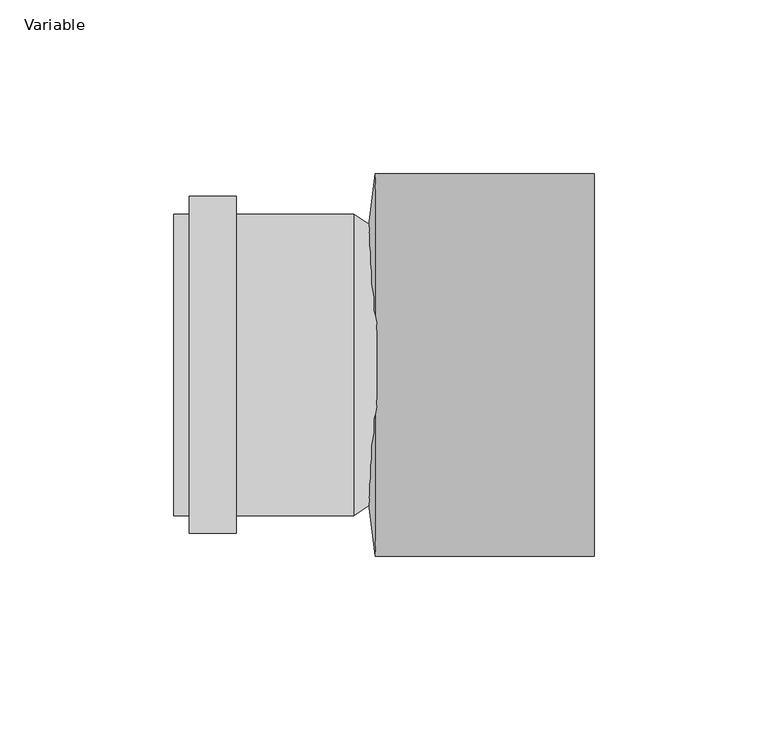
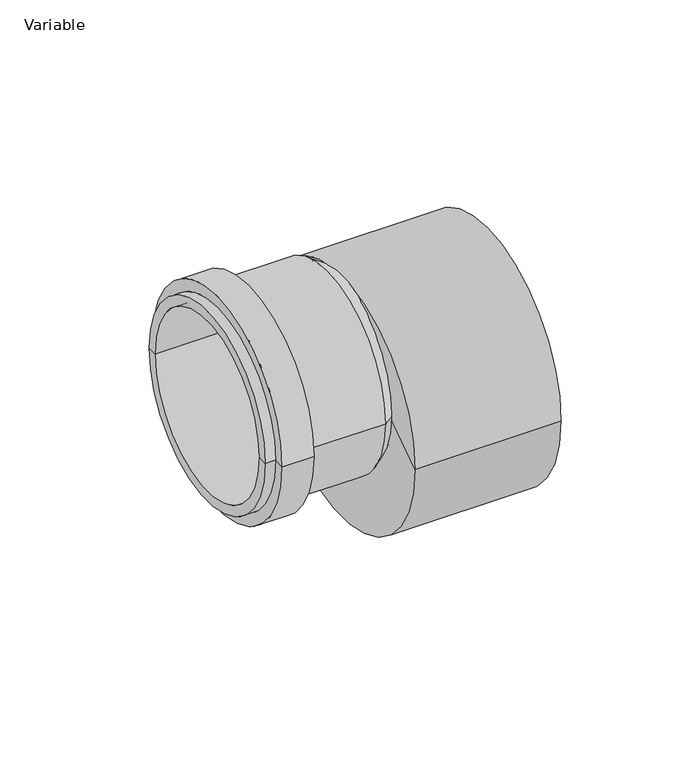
"""IFC4 building model written with IfcOpenShell, lengths in millimetres: pipe fitting geometry, AliaxisFR_Friaphon_Reducer_FR : Variable."""

from ifc_helpers import new_model, si_unit, point, frame, frame_2d, origin, origin_2d, place, context, project, spatial, polyline, circle_curve, trimmed, segment, composite_curve, outline, extrude, source, transform, mapped, element, save
from ifc_brep_helpers import plane_surface, cylinder_surface, revolved_surface, spline_surface, advanced_brep


def variable_4588926f(model_context):
    return source(origin(), model_context, "Body", "SolidModel", [
        advanced_brep(
        [(-87.5, -43.4, 0.0), (-87.5, 43.4, 0.0), (-87.5, 39.0, 0.0), (-87.5, -39.0, 0.0), (-69.5, -48.5, 0.0), (-69.5, 48.5, 0.0), (-83.1, 48.5, 0.0), (-83.1, -48.5, 0.0), (-69.5, -43.4, 0.0), (-69.5, 43.4, 0.0), (-35.7, -43.4, 0.0), (-35.7, 43.4, 0.0), (-29.1, 39.0, 0.0), (-29.1, -39.0, 0.0), (-83.1, -43.4, 0.0), (-83.1, 43.4, 0.0)],
        [
            (0, 1, circle_curve(frame((-87.5, 0.0, 0.0), z_axis=(-1.0, 0.0, 0.0), x_axis=(0.0, 1.0, 0.0)), 43.4)),
            (1, 2),
            (2, 3, circle_curve(frame((-87.5, 0.0, 0.0), z_axis=(1.0, 0.0, 0.0), x_axis=(0.0, 1.0, 0.0)), 39.0)),
            (3, 0),
            (1, 0, circle_curve(frame((-87.5, 0.0, 0.0), z_axis=(-1.0, 0.0, 0.0), x_axis=(0.0, 1.0, 0.0)), 43.4)),
            (3, 2, circle_curve(frame((-87.5, 0.0, 0.0), z_axis=(1.0, 0.0, 0.0), x_axis=(0.0, 1.0, 0.0)), 39.0)),
            (4, 5, circle_curve(frame((-69.5, 0.0, 0.0), z_axis=(-1.0, 0.0, 0.0), x_axis=(0.0, 1.0, 0.0)), 48.5)),
            (5, 6),
            (6, 7, circle_curve(frame((-83.1, 0.0, 0.0), z_axis=(1.0, 0.0, 0.0), x_axis=(0.0, 1.0, 0.0)), 48.5)),
            (7, 4),
            (5, 4, circle_curve(frame((-69.5, 0.0, 0.0), z_axis=(-1.0, 0.0, 0.0), x_axis=(0.0, 1.0, 0.0)), 48.5)),
            (7, 6, circle_curve(frame((-83.1, 0.0, 0.0), z_axis=(1.0, 0.0, 0.0), x_axis=(0.0, 1.0, 0.0)), 48.5)),
            (8, 9, circle_curve(frame((-69.5, 0.0, 0.0), z_axis=(-1.0, 0.0, 0.0), x_axis=(0.0, 1.0, 0.0)), 43.4)),
            (9, 5),
            (4, 8),
            (9, 8, circle_curve(frame((-69.5, 0.0, 0.0), z_axis=(-1.0, 0.0, 0.0), x_axis=(0.0, 1.0, 0.0)), 43.4)),
            (10, 11, circle_curve(frame((-35.7, 0.0, 0.0), z_axis=(-1.0, 0.0, 0.0), x_axis=(0.0, 1.0, 0.0)), 43.4)),
            (11, 9),
            (8, 10),
            (11, 10, circle_curve(frame((-35.7, 0.0, 0.0), z_axis=(-1.0, 0.0, 0.0), x_axis=(0.0, 1.0, 0.0)), 43.4)),
            (2, 12),
            (12, 13, circle_curve(frame((-29.1, 0.0, 0.0), z_axis=(1.0, 0.0, 0.0), x_axis=(0.0, 1.0, 0.0)), 39.0)),
            (13, 3),
            (13, 12, circle_curve(frame((-29.1, 0.0, 0.0), z_axis=(1.0, 0.0, 0.0), x_axis=(0.0, 1.0, 0.0)), 39.0)),
            (12, 11),
            (10, 13),
            (14, 15, circle_curve(frame((-83.1, 0.0, 0.0), z_axis=(-1.0, 0.0, 0.0), x_axis=(0.0, 1.0, 0.0)), 43.4)),
            (15, 1),
            (0, 14),
            (15, 14, circle_curve(frame((-83.1, 0.0, 0.0), z_axis=(-1.0, 0.0, 0.0), x_axis=(0.0, 1.0, 0.0)), 43.4)),
            (6, 15),
            (14, 7),
        ],
        [
            plane_surface(frame((-87.5, 0.0, 0.0), z_axis=(-1.0, 0.0, 0.0), x_axis=(0.0, 1.0, 0.0))),
            cylinder_surface(frame((-29.1, 0.0, 0.0), z_axis=(1.0, 0.0, 0.0), x_axis=(0.0, 1.0, 0.0)), 48.5),
            plane_surface(frame((-69.5, 0.0, 0.0), z_axis=(1.0, 0.0, 0.0), x_axis=(0.0, 1.0, 0.0))),
            cylinder_surface(frame((-29.1, 0.0, 0.0), z_axis=(1.0, 0.0, 0.0), x_axis=(0.0, 1.0, 0.0)), 43.4),
            revolved_surface(polyline([(-29.1, 39.0, 0.0), (-87.5, 39.0, 0.0)]), (-29.1, 0.0, 0.0), (1.0, 0.0, 0.0)),
            revolved_surface(polyline([(-35.7, 43.4, 0.0), (-29.1, 39.0, 0.0)]), (-29.1, 0.0, 0.0), (1.0, 0.0, 0.0)),
            plane_surface(frame((-83.1, 0.0, 0.0), z_axis=(-1.0, 0.0, 0.0), x_axis=(0.0, 1.0, 0.0))),
        ],
        [
            (0, [[1, 2, 3, 4]]),
            (0, [[5, -4, 6, -2]]),
            (1, [[7, 8, 9, 10]]),
            (1, [[11, -10, 12, -8]]),
            (2, [[13, 14, -7, 15]]),
            (2, [[16, -15, -11, -14]]),
            (3, [[17, 18, -13, 19]]),
            (3, [[20, -19, -16, -18]]),
            (4, [[-3, 21, 22, 23]]),
            (4, [[-6, -23, 24, -21]]),
            (5, [[-22, 25, -17, 26]]),
            (5, [[-24, -26, -20, -25]]),
            (3, [[27, 28, -1, 29]]),
            (3, [[30, -29, -5, -28]]),
            (6, [[-9, 31, -27, 32]]),
            (6, [[-12, -32, -30, -31]]),
        ],
    ),
        extrude(outline(composite_curve([segment(trimmed(circle_curve(origin_2d(), 39.0), [point((-39.0, 0.0))], [point((39.0, 0.0))], False, "CARTESIAN"), True, "CONTINUOUS"), segment(trimmed(circle_curve(origin_2d(), 39.0), [point((39.0, 0.0))], [point((-39.0, 0.0))], False, "CARTESIAN"), True, "CONTINUOUS")], self_intersect=False)), frame((-33.5, 0.0, 0.0), z_axis=(1.0, 0.0, 0.0), x_axis=(0.0, 1.0, 0.0)), (0.0, 0.0, 1.0), 2.0),
        advanced_brep(
        [(-31.5, -39.0, 0.0), (-31.5, 39.0, 0.0), (-29.5, -55.0, -16.0), (-29.5, 55.0, -16.0)],
        [
            (0, 1, circle_curve(frame((-31.5, 0.0, 0.0), z_axis=(-1.0, 0.0, 0.0), x_axis=(0.0, 1.0, 0.0)), 39.0)),
            (1, 0, circle_curve(frame((-31.5, 0.0, 0.0), z_axis=(-1.0, 0.0, 0.0), x_axis=(0.0, 1.0, 0.0)), 39.0)),
            (2, 3, circle_curve(frame((-29.5, 0.0, -16.0), z_axis=(1.0, 0.0, 0.0), x_axis=(0.0, 1.0, 0.0)), 55.0)),
            (3, 2, circle_curve(frame((-29.5, 0.0, -16.0), z_axis=(1.0, 0.0, 0.0), x_axis=(0.0, 1.0, 0.0)), 55.0)),
            (3, 1),
            (0, 2),
        ],
        [
            plane_surface(frame((-31.5, 0.0, 0.0), z_axis=(-1.0, 0.0, 0.0), x_axis=(0.0, 0.0, 1.0))),
            plane_surface(frame((-29.5, 0.0, -16.0), z_axis=(1.0, 0.0, 0.0), x_axis=(0.0, 0.0, 1.0))),
            spline_surface(2, 1, [[(-29.5, -55.0, -16.0), (-31.5, -39.0, 0.0)], [(-29.5, -55.0, 39.0), (-31.5, -39.0, 39.0)], [(-29.5, 0.0, 39.0), (-31.5, 0.0, 39.0)], [(-29.5, 55.0, 39.0), (-31.5, 39.0, 39.0)], [(-29.5, 55.0, -16.0), (-31.5, 39.0, 0.0)]], [3, 2, 3], [2, 2], [0.0, 1.0, 2.0], [0.0, 1.0], weights=[[1.0, 1.0], [0.7071067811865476, 0.7071067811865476], [1.0, 1.0], [0.7071067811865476, 0.7071067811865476], [1.0, 1.0]]),
            spline_surface(2, 1, [[(-29.5, 55.0, -16.0), (-31.5, 39.0, 0.0)], [(-29.5, 55.0, -71.0), (-31.5, 39.0, -39.0)], [(-29.5, 0.0, -71.0), (-31.5, 0.0, -39.0)], [(-29.5, -55.0, -71.0), (-31.5, -39.0, -39.0)], [(-29.5, -55.0, -16.0), (-31.5, -39.0, 0.0)]], [3, 2, 3], [2, 2], [0.0, 1.0, 2.0], [0.0, 1.0], weights=[[1.0, 1.0], [0.7071067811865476, 0.7071067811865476], [1.0, 1.0], [0.7071067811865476, 0.7071067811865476], [1.0, 1.0]]),
        ],
        [
            (0, [[1, 2]]),
            (1, [[3, 4]]),
            (2, [[-4, 5, -1, 6]]),
            (3, [[-3, -6, -2, -5]]),
        ],
    ),
        extrude(outline(composite_curve([segment(trimmed(circle_curve(frame_2d((0.0, -16.0)), 55.0), [point((-55.0, -16.0))], [point((55.0, -16.0))], False, "CARTESIAN"), True, "CONTINUOUS"), segment(trimmed(circle_curve(frame_2d((0.0, -16.0)), 55.0), [point((55.0, -16.0))], [point((-55.0, -16.0))], False, "CARTESIAN"), True, "CONTINUOUS")], self_intersect=False)), frame((-29.5, 0.0, 0.0), z_axis=(1.0, 0.0, 0.0), x_axis=(0.0, 1.0, 0.0)), (0.0, 0.0, 1.0), 63.0),
    ])


if __name__ == "__main__":
    model = new_model("IFC4")
    model_context = context("Model", 3, world=origin())
    ifc_project = project(units=[si_unit("LENGTHUNIT", "METRE", prefix="MILLI")], contexts=[model_context])
    site = spatial("IfcSite", under=ifc_project)
    building = spatial("IfcBuilding", under=site)
    placement = place(None, origin())
    variable_shape = variable_4588926f(model_context)
    element("IfcPipeFitting", 1, ObjectType="AliaxisFR_Friaphon_Reducer_FR : Variable", at=placement, inside=building, context=model_context, shape_type="MappedRepresentation", body=[
        mapped(variable_shape, transform((0.0, 0.0, 0.0), x_axis=(1.0, 0.0, 0.0), y_axis=(0.0, 1.0, 0.0), z_axis=(0.0, 0.0, 1.0))),
    ])
    save(model, "model.ifc")
